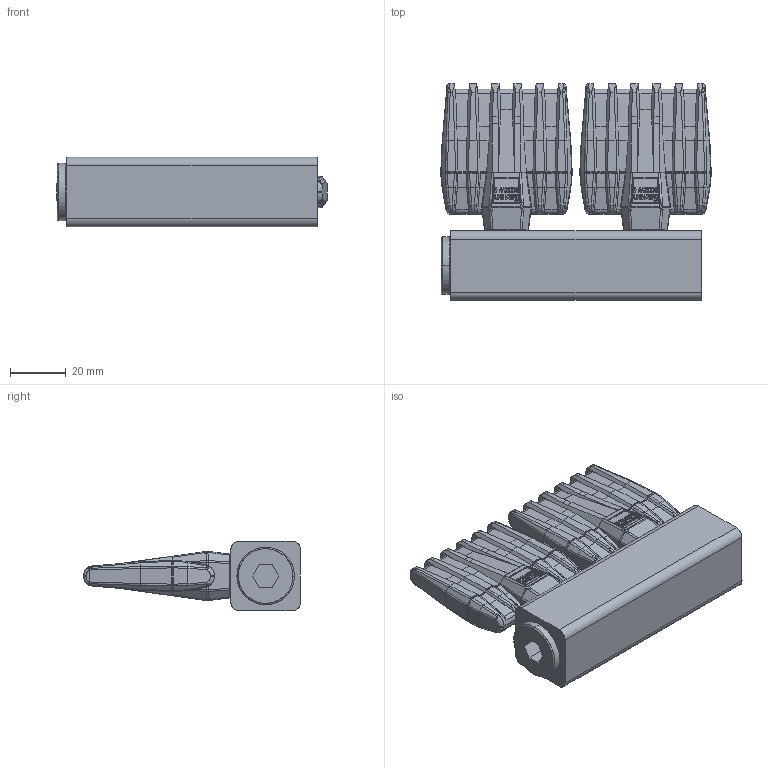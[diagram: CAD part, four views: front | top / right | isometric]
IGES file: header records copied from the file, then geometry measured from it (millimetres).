
Start section: SolidWorks IGES file using analytic representation for surfaces
Global section: file name: \\silv-file01\public$\SILVENT AB\ENGINEERING\Drawings\ÖVRIGT\IGES\392W-S.IGS; native system: SolidWorks 2016; preprocessor: SolidWorks 2016; author: a.olander; date: 190906.143554; units: millimetre
Bounding box: 97.21 x 78 x 25 mm (x, y, z)
Surface area: 31041 mm2 (no closed solid volume)
Topology: 0 solids, 0 shells, 2376 faces, 18672 edges, 18632 vertices
Faces by surface type: bspline 1794, revolution 582
